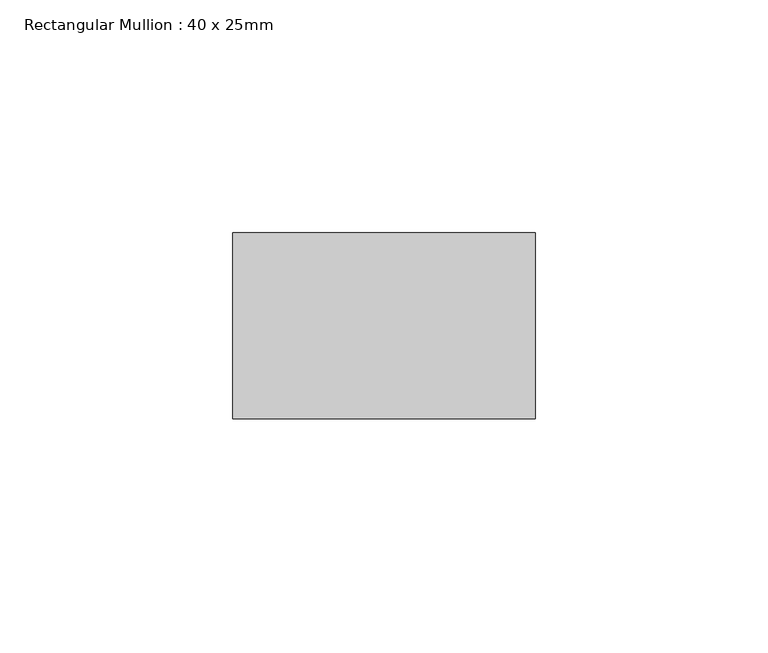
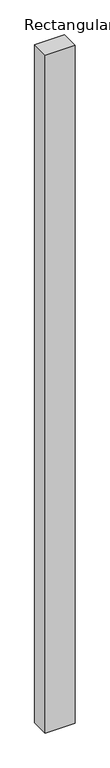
"""IFC4 building model written with IfcOpenShell, lengths in millimetres: member geometry, Rectangular Mullion : 40 x 25mm."""

from ifc_helpers import new_model, si_unit, frame, origin, place, context, project, spatial, polyline, outline, extrude, source, transform, mapped, element, save


def rectangular_mullion_40_x_25mm_24f7b7e2(model_context):
    return source(origin(), model_context, "Body", "SweptSolid", [
        extrude(outline(polyline([(0.0, -20.0), (0.0, -60.0), (-65.0, -60.0), (-65.0, -20.0), (0.0, -20.0)])), frame((0.0, 0.0, -1568.6), z_axis=(0.0, 0.0, 1.0), x_axis=(1.0, 0.0, 0.0)), (0.0, 0.0, 1.0), 1568.6),
    ])


if __name__ == "__main__":
    model = new_model("IFC4")
    model_context = context("Model", 3, world=origin())
    ifc_project = project(units=[si_unit("LENGTHUNIT", "METRE", prefix="MILLI")], contexts=[model_context])
    site = spatial("IfcSite", under=ifc_project)
    building = spatial("IfcBuilding", under=site)
    placement = place(None, origin())
    rectangular_mullion_40_x_25mm_shape = rectangular_mullion_40_x_25mm_24f7b7e2(model_context)
    element("IfcMember", 1, ObjectType="Rectangular Mullion : 40 x 25mm", at=placement, inside=building, context=model_context, shape_type="MappedRepresentation", body=[
        mapped(rectangular_mullion_40_x_25mm_shape, transform((0.0, 0.0, 0.0), x_axis=(1.0, 0.0, 0.0), y_axis=(0.0, 1.0, 0.0), z_axis=(0.0, 0.0, 1.0))),
    ])
    save(model, "model.ifc")
